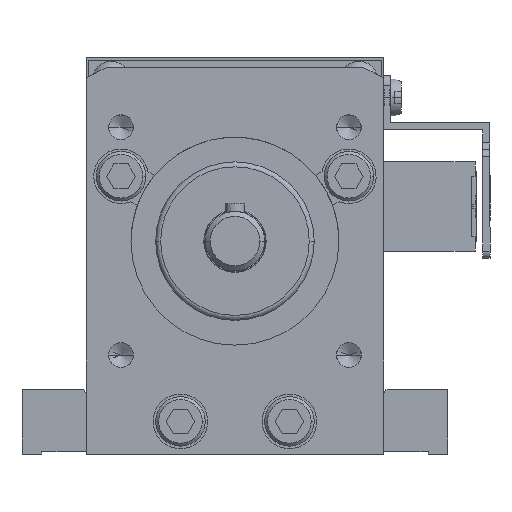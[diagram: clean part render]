
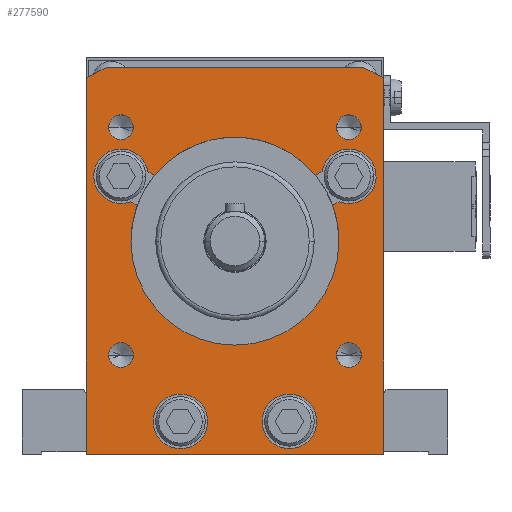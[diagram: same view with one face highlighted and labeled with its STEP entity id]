
A CAD part, front view. The second image highlights one B-rep face of the part: STEP entity #277590.
In plain terms, the highlighted planar face has unit normal (0, -1, 0) as drawn and (0, 0, 1) by its records, which use the part's own axes.
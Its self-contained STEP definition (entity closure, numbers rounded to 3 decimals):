
#238090=CARTESIAN_POINT('',(0.,76.,540.)
);
#238100=VERTEX_POINT('',#238090);
#238130=CARTESIAN_POINT('',(0.,0.,540.));
#238140=DIRECTION('',(0.,1.,0.));
#238150=VECTOR('',#238140,1.);
#238160=LINE('',#238130,#238150);
#238170=CARTESIAN_POINT('',(0.,0.,540.));
#238180=VERTEX_POINT('',#238170);
#238190=EDGE_CURVE('',#238180,#238100,#238160,.T.);
#246990=CARTESIAN_POINT('',(0.,0.,540.));
#247000=DIRECTION('',(-1.,0.,0.));
#247010=VECTOR('',#247000,1.);
#247020=LINE('',#246990,#247010);
#247030=CARTESIAN_POINT('',(60.,0.,540.));
#247040=VERTEX_POINT('',#247030);
#247050=EDGE_CURVE('',#247040,#238180,#247020,.T.);
#250360=CARTESIAN_POINT('',(60.,0.,540.));
#250370=DIRECTION('',(0.,-1.,0.));
#250380=VECTOR('',#250370,1.);
#250390=LINE('',#250360,#250380);
#250400=CARTESIAN_POINT('',(60.,76.,540.));
#250410=VERTEX_POINT('',#250400);
#250420=EDGE_CURVE('',#250410,#247040,#250390,.T.);
#256030=CARTESIAN_POINT('',(50.5,66.,540.));
#256040=VERTEX_POINT('',#256030);
#256200=CARTESIAN_POINT('',(55.5,66.,540.));
#256210=VERTEX_POINT('',#256200);
#256240=CARTESIAN_POINT('',(53.,66.,540.));
#256250=DIRECTION('',(0.,0.,1.));
#256260=DIRECTION('',(1.,0.,0.));
#256270=AXIS2_PLACEMENT_3D('',#256240,#256250,#256260);
#256280=CIRCLE('',#256270,2.5);
#256290=EDGE_CURVE('',#256040,#256210,#256280,.T.);
#263310=CARTESIAN_POINT('',(0.,106.,540.));
#263320=DIRECTION('',(-0.894,0.447,0.));
#263330=VECTOR('',#263320,1.);
#263340=LINE('',#263310,#263330);
#263350=CARTESIAN_POINT('',(56.,78.,540.));
#263360=VERTEX_POINT('',#263350);
#263370=EDGE_CURVE('',#250410,#263360,#263340,.T.);
#263660=CARTESIAN_POINT('',(0.,78.,540.));
#263670=DIRECTION('',(1.,0.,0.));
#263680=VECTOR('',#263670,1.);
#263690=LINE('',#263660,#263680);
#263700=CARTESIAN_POINT('',(4.,78.,540.));
#263710=VERTEX_POINT('',#263700);
#263720=EDGE_CURVE('',#263710,#263360,#263690,.T.);
#263930=CARTESIAN_POINT('',(0.,76.,540.));
#263940=DIRECTION('',(-0.894,-0.447,0.));
#263950=VECTOR('',#263940,1.);
#263960=LINE('',#263930,#263950);
#263970=EDGE_CURVE('',#263710,#238100,#263960,.T.);
#264950=CARTESIAN_POINT('',(9.,43.,540.));
#264960=VERTEX_POINT('',#264950);
#264990=CARTESIAN_POINT('',(30.,43.,540.));
#265000=DIRECTION('',(0.,0.,1.));
#265010=DIRECTION('',(1.,0.,0.));
#265020=AXIS2_PLACEMENT_3D('',#264990,#265000,#265010);
#265030=CIRCLE('',#265020,21.);
#265040=CARTESIAN_POINT('',(10.275,50.207,540.));
#265050=VERTEX_POINT('',#265040);
#265060=EDGE_CURVE('',#265050,#264960,#265030,.T.);
#265370=CARTESIAN_POINT('',(13.74,56.289,540.));
#265380=VERTEX_POINT('',#265370);
#265410=CARTESIAN_POINT('',(46.26,56.289,540.));
#265420=VERTEX_POINT('',#265410);
#265430=EDGE_CURVE('',#265420,#265380,#265030,.T.);
#265740=CARTESIAN_POINT('',(49.725,50.207,540.));
#265750=VERTEX_POINT('',#265740);
#265780=CARTESIAN_POINT('',(51.,43.,540.));
#265790=VERTEX_POINT('',#265780);
#265800=EDGE_CURVE('',#265790,#265750,#265030,.T.);
#272550=CARTESIAN_POINT('',(4.5,20.,540.));
#272560=VERTEX_POINT('',#272550);
#272640=CARTESIAN_POINT('',(9.5,20.,540.));
#272650=VERTEX_POINT('',#272640);
#272680=CARTESIAN_POINT('',(7.,20.,540.));
#272690=DIRECTION('',(0.,0.,1.));
#272700=DIRECTION('',(1.,0.,0.));
#272710=AXIS2_PLACEMENT_3D('',#272680,#272690,#272700);
#272720=CIRCLE('',#272710,2.5);
#272730=EDGE_CURVE('',#272560,#272650,#272720,.T.);
#272940=CARTESIAN_POINT('',(50.5,20.,540.));
#272950=VERTEX_POINT('',#272940);
#273030=CARTESIAN_POINT('',(55.5,20.,540.));
#273040=VERTEX_POINT('',#273030);
#273070=CARTESIAN_POINT('',(53.,20.,540.));
#273080=DIRECTION('',(0.,0.,1.));
#273090=DIRECTION('',(1.,0.,0.));
#273100=AXIS2_PLACEMENT_3D('',#273070,#273080,#273090);
#273110=CIRCLE('',#273100,2.5);
#273120=EDGE_CURVE('',#272950,#273040,#273110,.T.);
#274490=CARTESIAN_POINT('',(4.5,66.,540.));
#274500=VERTEX_POINT('',#274490);
#274580=CARTESIAN_POINT('',(9.5,66.,540.));
#274590=VERTEX_POINT('',#274580);
#274620=CARTESIAN_POINT('',(7.,66.,540.));
#274630=DIRECTION('',(0.,0.,1.));
#274640=DIRECTION('',(1.,0.,0.));
#274650=AXIS2_PLACEMENT_3D('',#274620,#274630,#274640);
#274660=CIRCLE('',#274650,2.5);
#274670=EDGE_CURVE('',#274500,#274590,#274660,.T.);
#276430=CARTESIAN_POINT('',(56.881,26.944,540.));
#276440=DIRECTION('',(0.,0.,1.));
#276450=DIRECTION('',(1.,0.,0.));
#276460=AXIS2_PLACEMENT_3D('',#276430,#276440,#276450);
#276470=PLANE('',#276460);
#276480=CARTESIAN_POINT('',(41.,6.6,540.));
#276490=DIRECTION('',(0.,0.,1.));
#276500=DIRECTION('',(1.,0.,0.));
#276510=AXIS2_PLACEMENT_3D('',#276480,#276490,#276500);
#276520=CIRCLE('',#276510,5.5);
#276530=CARTESIAN_POINT('',(46.5,6.6,540.));
#276540=VERTEX_POINT('',#276530);
#276550=CARTESIAN_POINT('',(35.5,6.6,540.));
#276560=VERTEX_POINT('',#276550);
#276570=EDGE_CURVE('',#276540,#276560,#276520,.T.);
#276580=ORIENTED_EDGE('',*,*,#276570,.F.);
#276590=EDGE_CURVE('',#276560,#276540,#276520,.T.);
#276600=ORIENTED_EDGE('',*,*,#276590,.F.);
#276610=EDGE_LOOP('',(#276600,#276580));
#276620=FACE_BOUND('',#276610,.T.);
#276630=CARTESIAN_POINT('',(19.,6.6,540.));
#276640=DIRECTION('',(0.,0.,1.));
#276650=DIRECTION('',(1.,0.,0.));
#276660=AXIS2_PLACEMENT_3D('',#276630,#276640,#276650);
#276670=CIRCLE('',#276660,5.5);
#276680=CARTESIAN_POINT('',(24.5,6.6,540.));
#276690=VERTEX_POINT('',#276680);
#276700=CARTESIAN_POINT('',(13.5,6.6,540.));
#276710=VERTEX_POINT('',#276700);
#276720=EDGE_CURVE('',#276690,#276710,#276670,.T.);
#276730=ORIENTED_EDGE('',*,*,#276720,.F.);
#276740=EDGE_CURVE('',#276710,#276690,#276670,.T.);
#276750=ORIENTED_EDGE('',*,*,#276740,.F.);
#276760=EDGE_LOOP('',(#276750,#276730));
#276770=FACE_BOUND('',#276760,.T.);
#276780=EDGE_CURVE('',#273040,#272950,#273110,.T.);
#276790=ORIENTED_EDGE('',*,*,#276780,.F.);
#276800=ORIENTED_EDGE('',*,*,#273120,.F.);
#276810=EDGE_LOOP('',(#276800,#276790));
#276820=FACE_BOUND('',#276810,.T.);
#276830=EDGE_CURVE('',#272650,#272560,#272720,.T.);
#276840=ORIENTED_EDGE('',*,*,#276830,.F.);
#276850=ORIENTED_EDGE('',*,*,#272730,.F.);
#276860=EDGE_LOOP('',(#276850,#276840));
#276870=FACE_BOUND('',#276860,.T.);
#276880=ORIENTED_EDGE('',*,*,#265430,.F.);
#276890=CARTESIAN_POINT('',(0.,64.115,540.));
#276900=DIRECTION('',(-0.869,0.495,0.));
#276910=VECTOR('',#276900,1.);
#276920=LINE('',#276890,#276910);
#276930=CARTESIAN_POINT('',(12.419,57.042,540.));
#276940=VERTEX_POINT('',#276930);
#276950=EDGE_CURVE('',#265380,#276940,#276920,.T.);
#276960=ORIENTED_EDGE('',*,*,#276950,.F.);
#276970=CARTESIAN_POINT('',(7.,56.1,540.));
#276980=DIRECTION('',(0.,0.,1.));
#276990=DIRECTION('',(1.,0.,0.));
#277000=AXIS2_PLACEMENT_3D('',#276970,#276980,#276990);
#277010=CIRCLE('',#277000,5.5);
#277020=CARTESIAN_POINT('',(8.954,50.959,540.));
#277030=VERTEX_POINT('',#277020);
#277040=EDGE_CURVE('',#276940,#277030,#277010,.T.);
#277050=ORIENTED_EDGE('',*,*,#277040,.F.);
#277060=CARTESIAN_POINT('',(0.,56.059,540.));
#277070=DIRECTION('',(0.869,-0.495,0.));
#277080=VECTOR('',#277070,1.);
#277090=LINE('',#277060,#277080);
#277100=EDGE_CURVE('',#277030,#265050,#277090,.T.);
#277110=ORIENTED_EDGE('',*,*,#277100,.F.);
#277120=ORIENTED_EDGE('',*,*,#265060,.F.);
#277130=EDGE_CURVE('',#264960,#265790,#265030,.T.);
#277140=ORIENTED_EDGE('',*,*,#277130,.F.);
#277150=ORIENTED_EDGE('',*,*,#265800,.F.);
#277160=CARTESIAN_POINT('',(0.,21.885,540.));
#277170=DIRECTION('',(0.869,0.495,0.));
#277180=VECTOR('',#277170,1.);
#277190=LINE('',#277160,#277180);
#277200=CARTESIAN_POINT('',(51.046,50.959,540.));
#277210=VERTEX_POINT('',#277200);
#277220=EDGE_CURVE('',#265750,#277210,#277190,.T.);
#277230=ORIENTED_EDGE('',*,*,#277220,.F.);
#277240=CARTESIAN_POINT('',(53.,56.1,540.));
#277250=DIRECTION('',(0.,0.,1.));
#277260=DIRECTION('',(1.,0.,0.));
#277270=AXIS2_PLACEMENT_3D('',#277240,#277250,#277260);
#277280=CIRCLE('',#277270,5.5);
#277290=CARTESIAN_POINT('',(47.581,57.042,540.));
#277300=VERTEX_POINT('',#277290);
#277310=EDGE_CURVE('',#277210,#277300,#277280,.T.);
#277320=ORIENTED_EDGE('',*,*,#277310,.F.);
#277330=CARTESIAN_POINT('',(0.,29.941,540.));
#277340=DIRECTION('',(-0.869,-0.495,0.));
#277350=VECTOR('',#277340,1.);
#277360=LINE('',#277330,#277350);
#277370=EDGE_CURVE('',#277300,#265420,#277360,.T.);
#277380=ORIENTED_EDGE('',*,*,#277370,.F.);
#277390=EDGE_LOOP('',(#277380,#277320,#277230,#277150,#277140,#277120,
#277110,#277050,#276960,#276880));
#277400=FACE_BOUND('',#277390,.T.);
#277410=EDGE_CURVE('',#274590,#274500,#274660,.T.);
#277420=ORIENTED_EDGE('',*,*,#277410,.F.);
#277430=ORIENTED_EDGE('',*,*,#274670,.F.);
#277440=EDGE_LOOP('',(#277430,#277420));
#277450=FACE_BOUND('',#277440,.T.);
#277460=EDGE_CURVE('',#256210,#256040,#256280,.T.);
#277470=ORIENTED_EDGE('',*,*,#277460,.F.);
#277480=ORIENTED_EDGE('',*,*,#256290,.F.);
#277490=EDGE_LOOP('',(#277480,#277470));
#277500=FACE_BOUND('',#277490,.T.);
#277510=ORIENTED_EDGE('',*,*,#238190,.F.);
#277520=ORIENTED_EDGE('',*,*,#263970,.T.);
#277530=ORIENTED_EDGE('',*,*,#263720,.F.);
#277540=ORIENTED_EDGE('',*,*,#263370,.T.);
#277550=ORIENTED_EDGE('',*,*,#250420,.F.);
#277560=ORIENTED_EDGE('',*,*,#247050,.F.);
#277570=EDGE_LOOP('',(#277560,#277550,#277540,#277530,#277520,#277510));
#277580=FACE_OUTER_BOUND('',#277570,.T.);
#277590=ADVANCED_FACE('',(#276620,#276770,#276820,#276870,#277400,
#277450,#277500,#277580),#276470,.T.);
